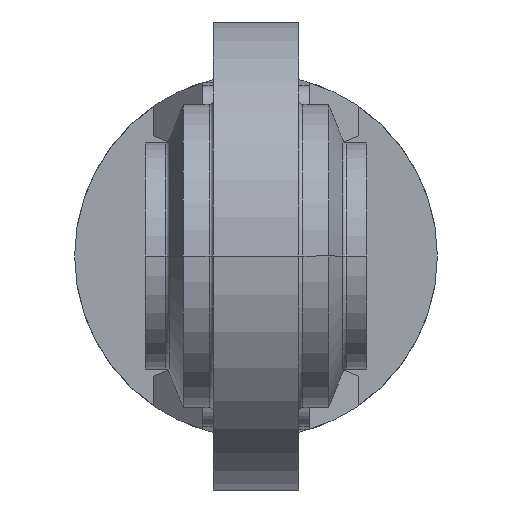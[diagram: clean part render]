
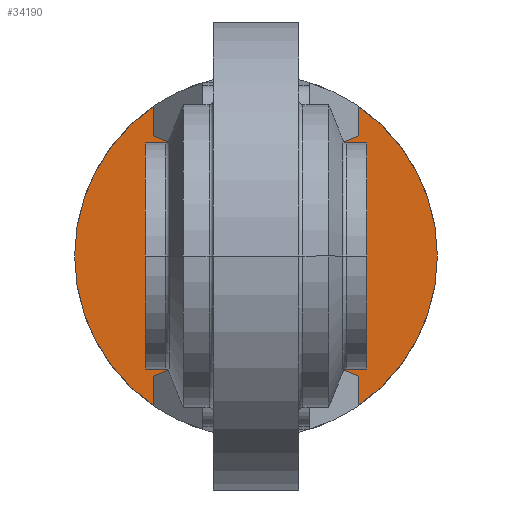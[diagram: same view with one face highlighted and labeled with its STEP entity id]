
A CAD part, front view. The second image highlights one B-rep face of the part: STEP entity #34190.
In plain terms, the highlighted planar face has unit normal (0, -1, 0).
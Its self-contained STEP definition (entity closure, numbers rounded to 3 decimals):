
#21000=CARTESIAN_POINT('',(30.396,170.746,32.));
#21010=VERTEX_POINT('',#21000);
#21040=CARTESIAN_POINT('',(30.396,170.746,
0.));
#21050=DIRECTION('',(0.,0.,-1.));
#21060=VECTOR('',#21050,1.);
#21070=LINE('',#21040,#21060);
#21080=CARTESIAN_POINT('',(30.396,170.746,
35.075));
#21090=VERTEX_POINT('',#21080);
#21100=EDGE_CURVE('',#21090,#21010,#21070,.T.);
#21800=CARTESIAN_POINT('',(78.396,170.746,
35.075));
#21810=VERTEX_POINT('',#21800);
#21860=CARTESIAN_POINT('',(78.396,170.746,
0.));
#21870=DIRECTION('',(0.,0.,1.));
#21880=VECTOR('',#21870,1.);
#21890=LINE('',#21860,#21880);
#21900=CARTESIAN_POINT('',(78.396,170.746,32.));
#21910=VERTEX_POINT('',#21900);
#21920=EDGE_CURVE('',#21910,#21810,#21890,.T.);
#22990=CARTESIAN_POINT('',(54.396,170.746,
0.));
#23000=DIRECTION('',(0.,-1.,0.));
#23010=DIRECTION('',(0.,0.,1.));
#23020=AXIS2_PLACEMENT_3D('',#22990,#23000,#23010);
#23030=CIRCLE('',#23020,42.5);
#23040=CARTESIAN_POINT('',(30.396,170.746,
-35.075));
#23050=VERTEX_POINT('',#23040);
#23060=EDGE_CURVE('',#21090,#23050,#23030,.T.);
#24350=CARTESIAN_POINT('',(54.396,170.746,
0.));
#24360=DIRECTION('',(0.,-1.,0.));
#24370=DIRECTION('',(0.,0.,1.));
#24380=AXIS2_PLACEMENT_3D('',#24350,#24360,#24370);
#24390=CIRCLE('',#24380,40.);
#24400=EDGE_CURVE('',#21910,#21010,#24390,.T.);
#26760=CARTESIAN_POINT('',(30.396,170.746,
0.));
#26770=DIRECTION('',(0.,0.,-1.));
#26780=VECTOR('',#26770,1.);
#26790=LINE('',#26760,#26780);
#26800=CARTESIAN_POINT('',(30.396,170.746,-32.));
#26810=VERTEX_POINT('',#26800);
#26820=EDGE_CURVE('',#26810,#23050,#26790,.T.);
#27370=CARTESIAN_POINT('',(78.396,170.746,-32.));
#27380=VERTEX_POINT('',#27370);
#27880=CARTESIAN_POINT('',(54.396,170.746,
0.));
#27890=DIRECTION('',(0.,-1.,0.));
#27900=DIRECTION('',(0.,0.,-1.));
#27910=AXIS2_PLACEMENT_3D('',#27880,#27890,#27900);
#27920=CIRCLE('',#27910,40.);
#27930=EDGE_CURVE('',#26810,#27380,#27920,.T.);
#31000=CARTESIAN_POINT('',(78.396,170.746,
0.));
#31010=DIRECTION('',(0.,0.,1.));
#31020=VECTOR('',#31010,1.);
#31030=LINE('',#31000,#31020);
#31040=CARTESIAN_POINT('',(78.396,170.746,
-35.075));
#31050=VERTEX_POINT('',#31040);
#31060=EDGE_CURVE('',#31050,#27380,#31030,.T.);
#33880=CARTESIAN_POINT('',(54.396,170.746,
0.));
#33890=DIRECTION('',(0.,-1.,0.));
#33900=DIRECTION('',(0.,0.,1.));
#33910=AXIS2_PLACEMENT_3D('',#33880,#33890,#33900);
#33920=PLANE('',#33910);
#33930=ORIENTED_EDGE('',*,*,#31060,.F.);
#33940=ORIENTED_EDGE('',*,*,#27930,.T.);
#33950=ORIENTED_EDGE('',*,*,#26820,.F.);
#33960=ORIENTED_EDGE('',*,*,#23060,.T.);
#33970=ORIENTED_EDGE('',*,*,#21100,.F.);
#33980=ORIENTED_EDGE('',*,*,#24400,.T.);
#33990=ORIENTED_EDGE('',*,*,#21920,.F.);
#34000=EDGE_CURVE('',#31050,#21810,#23030,.T.);
#34010=ORIENTED_EDGE('',*,*,#34000,.T.);
#34020=EDGE_LOOP('',(#34010,#33990,#33980,#33970,#33960,#33950,#33940,
#33930));
#34030=FACE_OUTER_BOUND('',#34020,.T.);
#34040=CARTESIAN_POINT('',(54.396,170.746,
0.));
#34050=DIRECTION('',(0.,-1.,0.));
#34060=DIRECTION('',(1.,0.,0.));
#34070=AXIS2_PLACEMENT_3D('',#34040,#34050,#34060);
#34080=CIRCLE('',#34070,10.);
#34090=CARTESIAN_POINT('',(64.396,170.746,
0.));
#34100=VERTEX_POINT('',#34090);
#34110=CARTESIAN_POINT('',(44.396,170.746,
0.));
#34120=VERTEX_POINT('',#34110);
#34130=EDGE_CURVE('',#34100,#34120,#34080,.T.);
#34140=ORIENTED_EDGE('',*,*,#34130,.F.);
#34150=EDGE_CURVE('',#34120,#34100,#34080,.T.);
#34160=ORIENTED_EDGE('',*,*,#34150,.F.);
#34170=EDGE_LOOP('',(#34160,#34140));
#34180=FACE_BOUND('',#34170,.T.);
#34190=ADVANCED_FACE('',(#34030,#34180),#33920,.T.);
